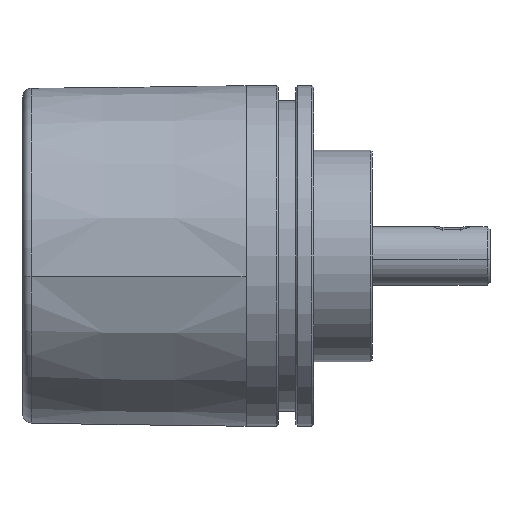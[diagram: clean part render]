
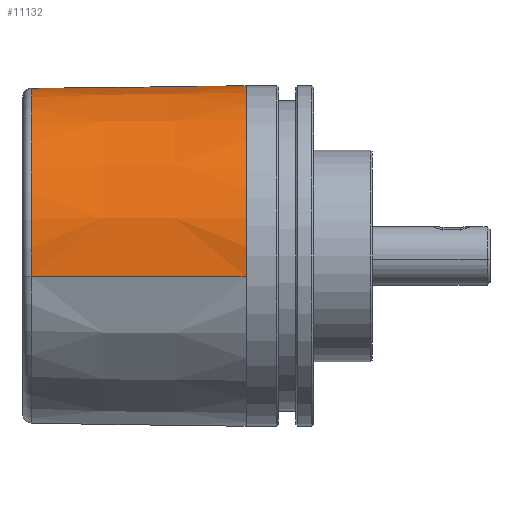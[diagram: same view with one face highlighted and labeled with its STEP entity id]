
A CAD part, front view. The second image highlights one B-rep face of the part: STEP entity #11132.
In plain terms, the highlighted conical face has half-angle 0.75 degrees and reference radius 29 mm.
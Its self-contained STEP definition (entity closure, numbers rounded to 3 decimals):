
#5904 = CARTESIAN_POINT ( 'NONE',  ( -2.48, 28.654, 3.518 ) ) ;
#6035 = DIRECTION ( 'NONE',  ( 0., 0.993, 0.122 ) ) ;
#6036 = DIRECTION ( 'NONE',  ( 1., 0., 0. ) ) ;
#6037 = CARTESIAN_POINT ( 'NONE',  ( -2.48, 0., 0. ) ) ;
#6038 = AXIS2_PLACEMENT_3D ( 'NONE', #6037, #6036, #6035 ) ;
#6081 = CARTESIAN_POINT ( 'NONE',  ( -29.02, 21.722, 18.484 ) ) ;
#6082 = CARTESIAN_POINT ( 'NONE',  ( -26.172, 21.772, 18.483 ) ) ;
#6083 = CARTESIAN_POINT ( 'NONE',  ( -23.325, 21.822, 18.482 ) ) ;
#6084 = CARTESIAN_POINT ( 'NONE',  ( -20.478, 21.872, 18.48 ) ) ;
#6085 = CARTESIAN_POINT ( 'NONE',  ( -16.479, 21.942, 18.478 ) ) ;
#6086 = CARTESIAN_POINT ( 'NONE',  ( -12.479, 22.012, 18.477 ) ) ;
#6087 = CARTESIAN_POINT ( 'NONE',  ( -8.48, 22.082, 18.475 ) ) ;
#6088 = CARTESIAN_POINT ( 'NONE',  ( -7.48, 22.099, 18.474 ) ) ;
#6089 = CARTESIAN_POINT ( 'NONE',  ( -6.48, 22.116, 18.474 ) ) ;
#6090 = CARTESIAN_POINT ( 'NONE',  ( -5.48, 22.134, 18.473 ) ) ;
#6093 = B_SPLINE_CURVE_WITH_KNOTS ( 'NONE', 3,
 ( #6090, #6089, #6088, #6087, #6086, #6085, #6084, #6083, #6082, #6081 ),
 .UNSPECIFIED., .F., .F.,
 ( 4, 3, 3, 4 ),
 ( 0., 0.003, 0.015, 0.024 ),
 .UNSPECIFIED. ) ;
#6095 = CARTESIAN_POINT ( 'NONE',  ( 7.5, -28.784, -3.534 ) ) ;
#6096 = DIRECTION ( 'NONE',  ( 1., 0.013, 0.002 ) ) ;
#6097 = VECTOR ( 'NONE', #6096, 1000. ) ;
#6098 = CARTESIAN_POINT ( 'NONE',  ( 7.5, 28.784, 3.534 ) ) ;
#6099 = LINE ( 'NONE', #6098, #6097 ) ;
#6153 = CIRCLE ( 'NONE', #6038, 28.869 ) ;
#6155 = CARTESIAN_POINT ( 'NONE',  ( -2.48, 24.354, 15.503 ) ) ;
#6239 = DIRECTION ( 'NONE',  ( 0., 0.993, 0.122 ) ) ;
#6240 = DIRECTION ( 'NONE',  ( 1., 0., 0. ) ) ;
#6241 = CARTESIAN_POINT ( 'NONE',  ( -29.02, 0., 0. ) ) ;
#6242 = AXIS2_PLACEMENT_3D ( 'NONE', #6241, #6240, #6239 ) ;
#6243 = CIRCLE ( 'NONE', #6242, 28.522 ) ;
#6244 = CARTESIAN_POINT ( 'NONE',  ( -29.02, 21.722, 18.484 ) ) ;
#6281 = AXIS2_PLACEMENT_3D ( 'NONE', #6413, #6412, #6411 ) ;
#6287 = CIRCLE ( 'NONE', #6281, 29. ) ;
#6342 = CARTESIAN_POINT ( 'NONE',  ( 7.5, 28.784, 3.534 ) ) ;
#6411 = DIRECTION ( 'NONE',  ( 0., 0.993, 0.122 ) ) ;
#6412 = DIRECTION ( 'NONE',  ( -1., 0., 0. ) ) ;
#6413 = CARTESIAN_POINT ( 'NONE',  ( 7.5, 0., 0. ) ) ;
#6439 = FACE_OUTER_BOUND ( 'NONE', #11110, .T. ) ;
#6472 = CARTESIAN_POINT ( 'NONE',  ( -29.02, -28.309, -3.476 ) ) ;
#6495 = DIRECTION ( 'NONE',  ( 1., -0.013, -0.002 ) ) ;
#6496 = VECTOR ( 'NONE', #6495, 1000. ) ;
#6497 = CARTESIAN_POINT ( 'NONE',  ( 7.5, -28.784, -3.534 ) ) ;
#6498 = LINE ( 'NONE', #6497, #6496 ) ;
#6563 = DIRECTION ( 'NONE',  ( 0., -0.993, -0.122 ) ) ;
#6564 = DIRECTION ( 'NONE',  ( 1., 0., 0. ) ) ;
#6565 = CARTESIAN_POINT ( 'NONE',  ( 7.5, 0., 0. ) ) ;
#6566 = AXIS2_PLACEMENT_3D ( 'NONE', #6565, #6564, #6563 ) ;
#6569 = CONICAL_SURFACE ( 'NONE', #6566, 29., 0.013 ) ;
#7205 = CARTESIAN_POINT ( 'NONE',  ( -5.48, 22.134, 18.473 ) ) ;
#7411 = CARTESIAN_POINT ( 'NONE',  ( -2.48, 24.354, 15.503 ) ) ;
#7412 = CARTESIAN_POINT ( 'NONE',  ( -2.48, 24.117, 15.875 ) ) ;
#7413 = CARTESIAN_POINT ( 'NONE',  ( -2.549, 23.877, 16.231 ) ) ;
#7414 = CARTESIAN_POINT ( 'NONE',  ( -2.75, 23.515, 16.743 ) ) ;
#7509 = CARTESIAN_POINT ( 'NONE',  ( -2.834, 23.395, 16.909 ) ) ;
#7510 = CARTESIAN_POINT ( 'NONE',  ( -3.029, 23.163, 17.22 ) ) ;
#7511 = CARTESIAN_POINT ( 'NONE',  ( -3.141, 23.051, 17.368 ) ) ;
#7512 = CARTESIAN_POINT ( 'NONE',  ( -3.399, 22.834, 17.646 ) ) ;
#7513 = CARTESIAN_POINT ( 'NONE',  ( -3.545, 22.729, 17.777 ) ) ;
#7514 = CARTESIAN_POINT ( 'NONE',  ( -3.864, 22.54, 18.01 ) ) ;
#7515 = CARTESIAN_POINT ( 'NONE',  ( -4.037, 22.454, 18.113 ) ) ;
#7516 = CARTESIAN_POINT ( 'NONE',  ( -4.417, 22.307, 18.287 ) ) ;
#7517 = CARTESIAN_POINT ( 'NONE',  ( -4.617, 22.247, 18.355 ) ) ;
#7518 = CARTESIAN_POINT ( 'NONE',  ( -5.038, 22.162, 18.448 ) ) ;
#7519 = CARTESIAN_POINT ( 'NONE',  ( -5.258, 22.138, 18.473 ) ) ;
#7520 = CARTESIAN_POINT ( 'NONE',  ( -5.48, 22.134, 18.473 ) ) ;
#7526 = B_SPLINE_CURVE_WITH_KNOTS ( 'NONE', 3,
 ( #7520, #7519, #7518, #7517, #7516, #7515, #7514, #7513, #7512, #7511, #7510, #7509, #7414, #7413, #7412, #7411 ),
 .UNSPECIFIED., .F., .F.,
 ( 4, 2, 2, 2, 2, 2, 2, 4 ),
 ( 0., 0.001, 0.001, 0.002, 0.003, 0.003, 0.004, 0.005 ),
 .UNSPECIFIED. ) ;
#10905 = VERTEX_POINT ( 'NONE', #5904 ) ;
#10952 = VERTEX_POINT ( 'NONE', #6155 ) ;
#10954 = EDGE_CURVE ( 'NONE', #10905, #10952, #6153, .T. ) ;
#10995 = EDGE_CURVE ( 'NONE', #10905, #11044, #6099, .T. ) ;
#10996 = VERTEX_POINT ( 'NONE', #6095 ) ;
#10998 = ORIENTED_EDGE ( 'NONE', *, *, #10999, .T. ) ;
#10999 = EDGE_CURVE ( 'NONE', #11182, #11018, #6093, .T. ) ;
#11000 = ORIENTED_EDGE ( 'NONE', *, *, #11017, .T. ) ;
#11001 = ORIENTED_EDGE ( 'NONE', *, *, #11080, .T. ) ;
#11017 = EDGE_CURVE ( 'NONE', #11018, #11083, #6243, .T. ) ;
#11018 = VERTEX_POINT ( 'NONE', #6244 ) ;
#11044 = VERTEX_POINT ( 'NONE', #6342 ) ;
#11049 = EDGE_CURVE ( 'NONE', #10996, #11044, #6287, .T. ) ;
#11080 = EDGE_CURVE ( 'NONE', #11083, #10996, #6498, .T. ) ;
#11083 = VERTEX_POINT ( 'NONE', #6472 ) ;
#11096 = ORIENTED_EDGE ( 'NONE', *, *, #11049, .T. ) ;
#11108 = ORIENTED_EDGE ( 'NONE', *, *, #10954, .T. ) ;
#11110 = EDGE_LOOP ( 'NONE', ( #11152, #11108, #11111, #10998, #11000, #11001, #11096 ) ) ;
#11111 = ORIENTED_EDGE ( 'NONE', *, *, #11169, .F. ) ;
#11132 = ADVANCED_FACE ( 'NONE', ( #6439 ), #6569, .T. ) ;
#11152 = ORIENTED_EDGE ( 'NONE', *, *, #10995, .F. ) ;
#11169 = EDGE_CURVE ( 'NONE', #11182, #10952, #7526, .T. ) ;
#11182 = VERTEX_POINT ( 'NONE', #7205 ) ;
